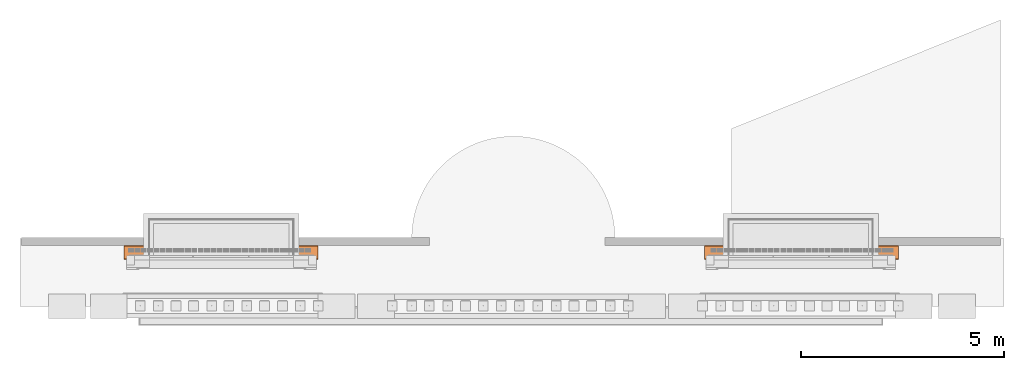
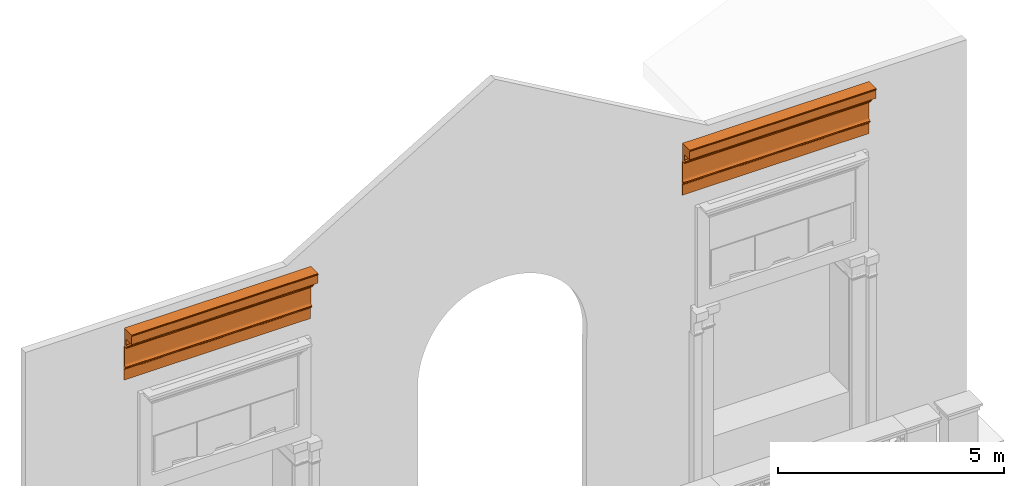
# One storey, part 7 of 14: 1 proxy.
"""IFC2X3 building model written with IfcOpenShell, lengths in metres."""

from ifc_helpers import new_model, entity, si_unit, converted_unit, derived_unit, direction, frame, frame_2d, origin, place, context, subcontext, project, spatial, polyline, circle_curve, parameter, trimmed, segment, composite_curve, outline, extrude, source, transform, mapped, material, material_list, type_object, type_shapes, element, save


model = new_model("IFC2X3")

# Units and contexts
model_context = context("Model", 3, precision=1e-05, world=origin(), true_north=direction((6.12303176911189e-17, 1.0)))
body_context = subcontext(model_context, "Body", "Model", "MODEL_VIEW")
ifc_project = project(units=[si_unit("LENGTHUNIT", "METRE"), si_unit("AREAUNIT", "SQUARE_METRE"), si_unit("VOLUMEUNIT", "CUBIC_METRE"), converted_unit("PLANEANGLEUNIT", "DEGREE", entity("IfcRatioMeasure", 0.0174532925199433), si_unit("PLANEANGLEUNIT", "RADIAN"), dimensions=[0, 0, 0, 0, 0, 0, 0]), si_unit("MASSUNIT", "GRAM", prefix="KILO"), derived_unit("MASSDENSITYUNIT", [(si_unit("MASSUNIT", "GRAM", prefix="KILO"), 1), (si_unit("LENGTHUNIT", "METRE"), -3)]), si_unit("TIMEUNIT", "SECOND"), si_unit("FREQUENCYUNIT", "HERTZ"), si_unit("THERMODYNAMICTEMPERATUREUNIT", "DEGREE_CELSIUS"), derived_unit("THERMALTRANSMITTANCEUNIT", [(si_unit("MASSUNIT", "GRAM", prefix="KILO"), 1), (si_unit("THERMODYNAMICTEMPERATUREUNIT", "KELVIN"), -1), (si_unit("TIMEUNIT", "SECOND"), -3)]), derived_unit("VOLUMETRICFLOWRATEUNIT", [(si_unit("LENGTHUNIT", "METRE"), 3), (si_unit("TIMEUNIT", "SECOND"), -1)]), si_unit("ELECTRICCURRENTUNIT", "AMPERE"), si_unit("ELECTRICVOLTAGEUNIT", "VOLT"), si_unit("POWERUNIT", "WATT"), si_unit("FORCEUNIT", "NEWTON", prefix="KILO"), si_unit("ILLUMINANCEUNIT", "LUX"), si_unit("LUMINOUSFLUXUNIT", "LUMEN"), si_unit("LUMINOUSINTENSITYUNIT", "CANDELA"), derived_unit("USERDEFINED", [(si_unit("MASSUNIT", "GRAM", prefix="KILO"), -1), (si_unit("LENGTHUNIT", "METRE"), -2), (si_unit("TIMEUNIT", "SECOND"), 3), (si_unit("LUMINOUSFLUXUNIT", "LUMEN"), 1)]), derived_unit("LINEARVELOCITYUNIT", [(si_unit("LENGTHUNIT", "METRE"), 1), (si_unit("TIMEUNIT", "SECOND"), -1)]), si_unit("PRESSUREUNIT", "PASCAL"), derived_unit("USERDEFINED", [(si_unit("LENGTHUNIT", "METRE"), -2), (si_unit("MASSUNIT", "GRAM", prefix="KILO"), 1), (si_unit("TIMEUNIT", "SECOND"), -2)])], contexts=[model_context])

# Site, building, storey
site_placement = place(None, origin())
site = spatial("IfcSite", under=ifc_project, at=site_placement, Name="Default", CompositionType="ELEMENT")
building_placement = place(site_placement, origin())
building = spatial("IfcBuilding", under=site, at=building_placement, CompositionType="ELEMENT")
storey_placement = place(building_placement, frame((0.0, 0.0, 13.366833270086)))
storey = spatial("IfcBuildingStorey", under=building, at=storey_placement, Name="Livello 2", CompositionType="ELEMENT", Elevation=13.366833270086)

# Proxy
ifc_material_1 = material(Name="Piperno")
ifc_material_2 = material(Name="Travertino")
ifc_material_list_1 = material_list([ifc_material_1, ifc_material_2])
ifc_material_list_2 = material_list([ifc_material_1, ifc_material_2])
building_element_proxy_type = type_object("IfcBuildingElementProxyType", Name="Cornice coronamento_1", PredefinedType="NOTDEFINED", material=ifc_material_list_2)
shared_shape = source(origin(), body_context, "Body", "SweptSolid", [
    extrude(outline(composite_curve([segment(trimmed(circle_curve(frame_2d((0.0352706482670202, -0.118232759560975), x_axis=(-0.995370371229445, -0.0961135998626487)), 0.0508706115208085), [parameter(302.474757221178)], [parameter(1.24168854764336e-11)], True, "PARAMETER"), True, "CONTINUOUS"), segment(polyline([(-0.0153644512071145, -0.123122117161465), (-0.00925958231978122, -0.145285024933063)]), True, "CONTINUOUS"), segment(polyline([(-0.00925958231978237, -0.145285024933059), (0.0736042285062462, -0.122459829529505)]), True, "CONTINUOUS"), segment(polyline([(0.0736042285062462, -0.122459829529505), (-0.027616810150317, 0.24500957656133)]), True, "CONTINUOUS"), segment(polyline([(-0.027616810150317, 0.24500957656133), (-0.0477700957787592, 0.239458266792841)]), True, "CONTINUOUS"), segment(polyline([(-0.0477700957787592, 0.239458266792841), (0.0224482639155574, -0.0154600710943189)]), True, "CONTINUOUS"), segment(trimmed(circle_curve(frame_2d((-0.078841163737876, -0.0196487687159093), x_axis=(1.0, 0.0)), 0.101375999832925), [parameter(324.761514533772)], [parameter(2.36804603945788)], True, "PARAMETER"), False, "CONTINUOUS")], self_intersect=False)), frame((14.2781328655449, 0.324700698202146, 0.246516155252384), z_axis=(-0.99999980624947, 0.0, 0.000622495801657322), x_axis=(0.000165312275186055, 0.964093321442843, 0.265563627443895)), (0.0, 0.0, -1.0), 4.7712519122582),
    extrude(outline(composite_curve([segment(trimmed(circle_curve(frame_2d((0.0352706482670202, -0.118232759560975), x_axis=(-0.995370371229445, -0.0961135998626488)), 0.0508706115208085), [parameter(302.474757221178)], [parameter(1.24168854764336e-11)], True, "PARAMETER"), True, "CONTINUOUS"), segment(polyline([(-0.0153644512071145, -0.123122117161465), (-0.00925958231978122, -0.145285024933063)]), True, "CONTINUOUS"), segment(polyline([(-0.00925958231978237, -0.145285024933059), (0.0736042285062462, -0.122459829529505)]), True, "CONTINUOUS"), segment(polyline([(0.0736042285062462, -0.122459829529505), (-0.027616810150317, 0.24500957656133)]), True, "CONTINUOUS"), segment(polyline([(-0.027616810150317, 0.24500957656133), (-0.0477700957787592, 0.239458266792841)]), True, "CONTINUOUS"), segment(polyline([(-0.0477700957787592, 0.239458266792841), (0.0224482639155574, -0.0154600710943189)]), True, "CONTINUOUS"), segment(trimmed(circle_curve(frame_2d((-0.078841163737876, -0.0196487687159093), x_axis=(1.0, 0.0)), 0.101375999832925), [parameter(324.761514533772)], [parameter(2.36804603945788)], True, "PARAMETER"), False, "CONTINUOUS")], self_intersect=False)), frame((0.000151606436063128, 0.324700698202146, 0.246516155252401), z_axis=(-0.99999980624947, 0.0, 0.000622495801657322), x_axis=(0.000165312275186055, 0.964093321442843, 0.265563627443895)), (0.0, 0.0, -1.0), 4.77125191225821),
    extrude(outline(composite_curve([segment(polyline([(-0.0261134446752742, -0.303587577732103), (-0.00111344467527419, -0.303587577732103)]), True, "CONTINUOUS"), segment(polyline([(-0.00111344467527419, -0.303587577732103), (-0.00111344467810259, 0.159713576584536)]), True, "CONTINUOUS"), segment(trimmed(circle_curve(frame_2d((0.0586787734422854, 0.163938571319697), x_axis=(0.0704855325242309, 0.997512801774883)), 0.059941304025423), [parameter(8.08375013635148)], [parameter(98.0837501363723)], True, "PARAMETER"), False, "CONTINUOUS"), segment(polyline([(0.0544537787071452, 0.223730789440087), (-0.0261134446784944, 0.223730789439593)]), True, "CONTINUOUS"), segment(polyline([(-0.0261134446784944, 0.223730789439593), (-0.0261134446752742, -0.303587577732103)]), True, "CONTINUOUS")], self_intersect=False)), frame((14.2783574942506, 0.331644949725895, 0.607367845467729), z_axis=(0.99999980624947, 0.0, -0.000622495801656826), x_axis=(0.0, -1.0, 0.0)), (0.0, 0.0, 1.0), 4.7712519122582),
    extrude(outline(composite_curve([segment(trimmed(circle_curve(frame_2d((0.0352706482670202, -0.118232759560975), x_axis=(-0.995370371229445, -0.0961135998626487)), 0.0508706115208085), [parameter(302.474757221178)], [parameter(1.24168854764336e-11)], True, "PARAMETER"), True, "CONTINUOUS"), segment(polyline([(-0.0153644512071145, -0.123122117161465), (-0.00925958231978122, -0.145285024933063)]), True, "CONTINUOUS"), segment(polyline([(-0.00925958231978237, -0.145285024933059), (0.0736042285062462, -0.122459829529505)]), True, "CONTINUOUS"), segment(polyline([(0.0736042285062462, -0.122459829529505), (-0.027616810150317, 0.24500957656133)]), True, "CONTINUOUS"), segment(polyline([(-0.027616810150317, 0.24500957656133), (-0.0477700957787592, 0.239458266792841)]), True, "CONTINUOUS"), segment(polyline([(-0.0477700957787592, 0.239458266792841), (0.0224482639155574, -0.0154600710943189)]), True, "CONTINUOUS"), segment(trimmed(circle_curve(frame_2d((-0.078841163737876, -0.0196487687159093), x_axis=(1.0, 0.0)), 0.101375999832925), [parameter(324.761514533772)], [parameter(2.36804603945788)], True, "PARAMETER"), False, "CONTINUOUS")], self_intersect=False)), frame((14.2781328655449, 0.324700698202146, 0.246516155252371), z_axis=(-0.99999980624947, 0.0, 0.000622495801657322), x_axis=(0.000165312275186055, 0.964093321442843, 0.265563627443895)), (0.0, 0.0, -1.0), 4.7712519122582),
    extrude(outline(composite_curve([segment(polyline([(-0.0261134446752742, -0.303587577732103), (-0.00111344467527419, -0.303587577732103)]), True, "CONTINUOUS"), segment(polyline([(-0.00111344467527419, -0.303587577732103), (-0.00111344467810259, 0.159713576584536)]), True, "CONTINUOUS"), segment(trimmed(circle_curve(frame_2d((0.0586787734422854, 0.163938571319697), x_axis=(0.0704855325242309, 0.997512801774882)), 0.059941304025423), [parameter(8.08375013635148)], [parameter(98.0837501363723)], True, "PARAMETER"), False, "CONTINUOUS"), segment(polyline([(0.0544537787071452, 0.223730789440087), (-0.0261134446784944, 0.223730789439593)]), True, "CONTINUOUS"), segment(polyline([(-0.0261134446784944, 0.223730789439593), (-0.0261134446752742, -0.303587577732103)]), True, "CONTINUOUS")], self_intersect=False)), frame((14.2783574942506, 0.331644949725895, 0.607367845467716), z_axis=(0.99999980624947, 0.0, -0.000622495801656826), x_axis=(0.0, -1.0, 0.0)), (0.0, 0.0, 1.0), 4.7712519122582),
    extrude(outline(composite_curve([segment(polyline([(-0.223788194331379, -0.136900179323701), (-0.185712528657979, -0.136900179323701)]), True, "CONTINUOUS"), segment(polyline([(-0.185712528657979, -0.136900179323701), (-0.0618928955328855, -0.136900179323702)]), True, "CONTINUOUS"), segment(polyline([(-0.0618928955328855, -0.136900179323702), (0.00329674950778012, -0.136900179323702)]), True, "CONTINUOUS"), segment(polyline([(0.00329674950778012, -0.136900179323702), (0.00329674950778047, -0.0369001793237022)]), True, "CONTINUOUS"), segment(polyline([(0.00329674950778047, -0.0369001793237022), (0.00329674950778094, 0.0953326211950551)]), True, "CONTINUOUS"), segment(polyline([(0.00329674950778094, 0.0953326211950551), (0.152342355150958, 0.0953326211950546)]), True, "CONTINUOUS"), segment(polyline([(0.152342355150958, 0.0953326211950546), (0.152342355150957, 0.0305071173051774)]), True, "CONTINUOUS"), segment(trimmed(circle_curve(frame_2d((0.142426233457, 0.0804019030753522), x_axis=(0.171671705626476, -0.985154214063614)), 0.0508706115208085), [parameter(1.35550516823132)], [parameter(52.0346344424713)], True, "PARAMETER"), True, "CONTINUOUS"), segment(trimmed(circle_curve(frame_2d((0.269103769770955, -0.00343220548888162), x_axis=(-0.265563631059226, 0.964093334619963)), 0.101375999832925), [parameter(357.631956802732)], [parameter(38.3886207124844)], True, "PARAMETER"), False, "CONTINUOUS"), segment(polyline([(0.246243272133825, 0.0953326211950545), (0.246243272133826, 0.174219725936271)]), True, "CONTINUOUS"), segment(polyline([(0.246243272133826, 0.174219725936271), (-0.261488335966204, 0.174219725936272)]), True, "CONTINUOUS"), segment(polyline([(-0.261488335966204, 0.174219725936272), (-0.261488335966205, -0.136900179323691)]), True, "CONTINUOUS"), segment(trimmed(circle_curve(frame_2d((-0.242638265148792, -0.138198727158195), x_axis=(0.997635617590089, 0.0687253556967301)), 0.0188947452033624), [parameter(172.118442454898)], [parameter(359.999999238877)], True, "PARAMETER"), True, "CONTINUOUS")], self_intersect=False)), frame((14.2786997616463, 0.158538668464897, 1.15719858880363), z_axis=(0.99999980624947, 0.0, -0.00062249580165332), x_axis=(-0.00062249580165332, 0.0, -0.99999980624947)), (0.0, 0.0, 1.0), 4.7712519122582),
    extrude(outline(composite_curve([segment(trimmed(circle_curve(frame_2d((0.0352706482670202, -0.118232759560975), x_axis=(-0.995370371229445, -0.0961135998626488)), 0.0508706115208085), [parameter(302.474757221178)], [parameter(1.24168854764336e-11)], True, "PARAMETER"), True, "CONTINUOUS"), segment(polyline([(-0.0153644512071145, -0.123122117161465), (-0.00925958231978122, -0.145285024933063)]), True, "CONTINUOUS"), segment(polyline([(-0.00925958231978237, -0.145285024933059), (0.0736042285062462, -0.122459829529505)]), True, "CONTINUOUS"), segment(polyline([(0.0736042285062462, -0.122459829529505), (-0.027616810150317, 0.24500957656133)]), True, "CONTINUOUS"), segment(polyline([(-0.027616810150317, 0.24500957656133), (-0.0477700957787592, 0.239458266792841)]), True, "CONTINUOUS"), segment(polyline([(-0.0477700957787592, 0.239458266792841), (0.0224482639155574, -0.0154600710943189)]), True, "CONTINUOUS"), segment(trimmed(circle_curve(frame_2d((-0.078841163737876, -0.0196487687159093), x_axis=(1.0, 0.0)), 0.101375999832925), [parameter(324.761514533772)], [parameter(2.36804603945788)], True, "PARAMETER"), False, "CONTINUOUS")], self_intersect=False)), frame((0.000151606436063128, 0.324700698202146, 0.246516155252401), z_axis=(-0.99999980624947, 0.0, 0.000622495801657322), x_axis=(0.000165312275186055, 0.964093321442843, 0.265563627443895)), (0.0, 0.0, -1.0), 4.77125191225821),
    extrude(outline(composite_curve([segment(trimmed(circle_curve(frame_2d((0.0352706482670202, -0.118232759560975), x_axis=(-0.995370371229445, -0.0961135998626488)), 0.0508706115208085), [parameter(302.474757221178)], [parameter(1.24168854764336e-11)], True, "PARAMETER"), True, "CONTINUOUS"), segment(polyline([(-0.0153644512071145, -0.123122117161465), (-0.00925958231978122, -0.145285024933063)]), True, "CONTINUOUS"), segment(polyline([(-0.00925958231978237, -0.145285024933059), (0.0736042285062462, -0.122459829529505)]), True, "CONTINUOUS"), segment(polyline([(0.0736042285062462, -0.122459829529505), (-0.027616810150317, 0.24500957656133)]), True, "CONTINUOUS"), segment(polyline([(-0.027616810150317, 0.24500957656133), (-0.0477700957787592, 0.239458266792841)]), True, "CONTINUOUS"), segment(polyline([(-0.0477700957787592, 0.239458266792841), (0.0224482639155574, -0.0154600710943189)]), True, "CONTINUOUS"), segment(trimmed(circle_curve(frame_2d((-0.078841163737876, -0.0196487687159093), x_axis=(1.0, 0.0)), 0.101375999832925), [parameter(324.761514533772)], [parameter(2.36804603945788)], True, "PARAMETER"), False, "CONTINUOUS")], self_intersect=False)), frame((0.000151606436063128, 0.324700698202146, 0.246516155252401), z_axis=(-0.99999980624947, 0.0, 0.000622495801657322), x_axis=(0.000165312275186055, 0.964093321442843, 0.265563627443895)), (0.0, 0.0, -1.0), 4.77125191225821),
    extrude(outline(composite_curve([segment(polyline([(-0.0261134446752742, -0.303587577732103), (-0.00111344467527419, -0.303587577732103)]), True, "CONTINUOUS"), segment(polyline([(-0.00111344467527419, -0.303587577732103), (-0.00111344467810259, 0.159713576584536)]), True, "CONTINUOUS"), segment(trimmed(circle_curve(frame_2d((0.0586787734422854, 0.163938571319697), x_axis=(0.0704855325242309, 0.997512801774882)), 0.059941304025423), [parameter(8.08375013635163)], [parameter(98.0837501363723)], True, "PARAMETER"), False, "CONTINUOUS"), segment(polyline([(0.0544537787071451, 0.223730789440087), (-0.0261134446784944, 0.223730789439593)]), True, "CONTINUOUS"), segment(polyline([(-0.0261134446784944, 0.223730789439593), (-0.0261134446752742, -0.303587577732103)]), True, "CONTINUOUS")], self_intersect=False)), frame((0.000376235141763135, 0.331644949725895, 0.607367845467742), z_axis=(0.99999980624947, 0.0, -0.000622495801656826), x_axis=(0.0, -1.0, 0.0)), (0.0, 0.0, 1.0), 4.7712519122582),
    extrude(outline(composite_curve([segment(trimmed(circle_curve(frame_2d((0.0352706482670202, -0.118232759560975), x_axis=(-0.995370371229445, -0.0961135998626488)), 0.0508706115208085), [parameter(302.474757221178)], [parameter(1.24168854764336e-11)], True, "PARAMETER"), True, "CONTINUOUS"), segment(polyline([(-0.0153644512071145, -0.123122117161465), (-0.00925958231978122, -0.145285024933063)]), True, "CONTINUOUS"), segment(polyline([(-0.00925958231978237, -0.145285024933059), (0.0736042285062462, -0.122459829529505)]), True, "CONTINUOUS"), segment(polyline([(0.0736042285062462, -0.122459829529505), (-0.027616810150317, 0.24500957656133)]), True, "CONTINUOUS"), segment(polyline([(-0.027616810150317, 0.24500957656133), (-0.0477700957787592, 0.239458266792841)]), True, "CONTINUOUS"), segment(polyline([(-0.0477700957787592, 0.239458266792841), (0.0224482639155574, -0.0154600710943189)]), True, "CONTINUOUS"), segment(trimmed(circle_curve(frame_2d((-0.078841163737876, -0.0196487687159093), x_axis=(1.0, 0.0)), 0.101375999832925), [parameter(324.761514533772)], [parameter(2.36804603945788)], True, "PARAMETER"), False, "CONTINUOUS")], self_intersect=False)), frame((0.000151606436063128, 0.324700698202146, 0.246516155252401), z_axis=(-0.99999980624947, 0.0, 0.000622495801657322), x_axis=(0.000165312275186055, 0.964093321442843, 0.265563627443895)), (0.0, 0.0, -1.0), 4.77125191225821),
    extrude(outline(composite_curve([segment(polyline([(-0.0261134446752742, -0.303587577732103), (-0.00111344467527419, -0.303587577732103)]), True, "CONTINUOUS"), segment(polyline([(-0.00111344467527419, -0.303587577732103), (-0.00111344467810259, 0.159713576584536)]), True, "CONTINUOUS"), segment(trimmed(circle_curve(frame_2d((0.0586787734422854, 0.163938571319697), x_axis=(0.0704855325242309, 0.997512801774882)), 0.059941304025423), [parameter(8.08375013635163)], [parameter(98.0837501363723)], True, "PARAMETER"), False, "CONTINUOUS"), segment(polyline([(0.0544537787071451, 0.223730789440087), (-0.0261134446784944, 0.223730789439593)]), True, "CONTINUOUS"), segment(polyline([(-0.0261134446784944, 0.223730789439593), (-0.0261134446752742, -0.303587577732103)]), True, "CONTINUOUS")], self_intersect=False)), frame((0.000376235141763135, 0.331644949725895, 0.607367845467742), z_axis=(0.99999980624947, 0.0, -0.000622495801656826), x_axis=(0.0, -1.0, 0.0)), (0.0, 0.0, 1.0), 4.7712519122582),
    extrude(outline(composite_curve([segment(polyline([(-0.22378819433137, -0.136900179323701), (-0.185712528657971, -0.136900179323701)]), True, "CONTINUOUS"), segment(polyline([(-0.185712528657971, -0.136900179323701), (-0.0618928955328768, -0.136900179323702)]), True, "CONTINUOUS"), segment(polyline([(-0.0618928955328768, -0.136900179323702), (0.00329674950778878, -0.136900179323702)]), True, "CONTINUOUS"), segment(polyline([(0.00329674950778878, -0.136900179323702), (0.00329674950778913, -0.0369001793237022)]), True, "CONTINUOUS"), segment(polyline([(0.00329674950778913, -0.0369001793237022), (0.0032967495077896, 0.0953326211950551)]), True, "CONTINUOUS"), segment(polyline([(0.0032967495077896, 0.0953326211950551), (0.152342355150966, 0.0953326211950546)]), True, "CONTINUOUS"), segment(polyline([(0.152342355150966, 0.0953326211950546), (0.152342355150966, 0.0305071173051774)]), True, "CONTINUOUS"), segment(trimmed(circle_curve(frame_2d((0.142426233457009, 0.0804019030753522), x_axis=(0.171671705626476, -0.985154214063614)), 0.0508706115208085), [parameter(1.35550516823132)], [parameter(52.0346344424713)], True, "PARAMETER"), True, "CONTINUOUS"), segment(trimmed(circle_curve(frame_2d((0.269103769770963, -0.00343220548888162), x_axis=(-0.265563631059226, 0.964093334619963)), 0.101375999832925), [parameter(357.631956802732)], [parameter(38.3886207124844)], True, "PARAMETER"), False, "CONTINUOUS"), segment(polyline([(0.246243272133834, 0.0953326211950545), (0.246243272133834, 0.174219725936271)]), True, "CONTINUOUS"), segment(polyline([(0.246243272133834, 0.174219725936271), (-0.261488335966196, 0.174219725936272)]), True, "CONTINUOUS"), segment(polyline([(-0.261488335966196, 0.174219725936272), (-0.261488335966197, -0.136900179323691)]), True, "CONTINUOUS"), segment(trimmed(circle_curve(frame_2d((-0.242638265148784, -0.138198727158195), x_axis=(0.997635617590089, 0.0687253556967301)), 0.0188947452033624), [parameter(172.118442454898)], [parameter(359.999999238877)], True, "PARAMETER"), True, "CONTINUOUS")], self_intersect=False)), frame((0.000718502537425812, 0.158538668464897, 1.15719858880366), z_axis=(0.99999980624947, 0.0, -0.00062249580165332), x_axis=(-0.00062249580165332, 0.0, -0.99999980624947)), (0.0, 0.0, 1.0), 4.7712519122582),
])
type_shapes(building_element_proxy_type, [shared_shape])
proxy_placement = place(storey_placement, frame((-9.56682913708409, 0.919501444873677, 8.29791230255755)))
element("IfcBuildingElementProxy", 1, at=proxy_placement, inside=storey, type_object=building_element_proxy_type, material=ifc_material_list_1, Name="Cornice coronamento_1:Cornice coronamento_1", ObjectType="Cornice coronamento_1", context=body_context, shape_type="MappedRepresentation", body=[
    mapped(shared_shape, transform((0.0, 0.0, 0.0), scale=1.0)),
])

save(model, "model.ifc")
